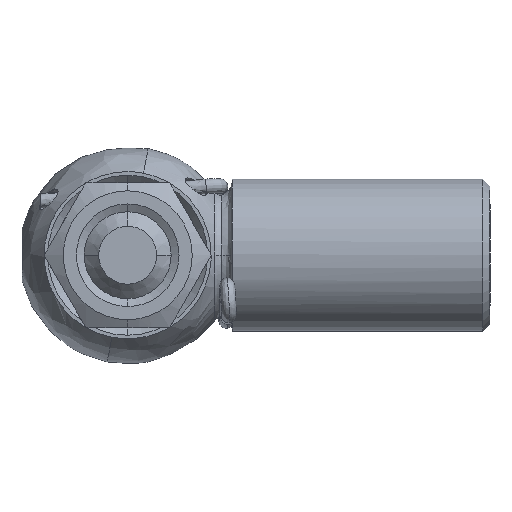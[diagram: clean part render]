
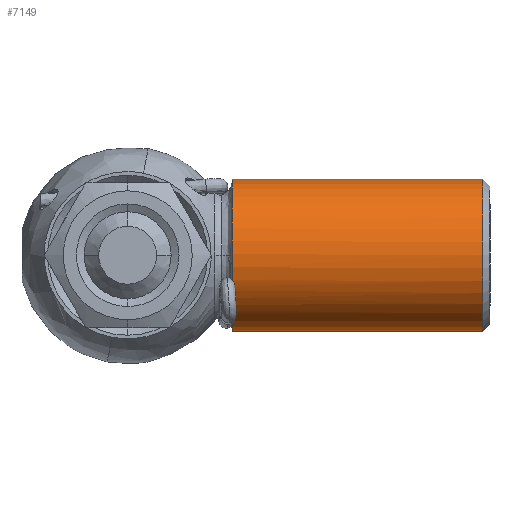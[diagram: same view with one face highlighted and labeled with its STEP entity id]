
A CAD part, front view. The second image highlights one B-rep face of the part: STEP entity #7149.
In plain terms, the highlighted cylindrical face has radius 5.25 mm (diameter 10.5 mm), a partial arc.
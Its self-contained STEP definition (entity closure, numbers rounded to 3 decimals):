
#23 = AXIS2_PLACEMENT_3D ( 'NONE', #8286, #9053, #9854 ) ;
#203 = CARTESIAN_POINT ( 'NONE',  ( -17.718, -3.527, -3.89 ) ) ;
#227 = VERTEX_POINT ( 'NONE', #2310 ) ;
#402 = DIRECTION ( 'NONE',  ( 0., 0., -1. ) ) ;
#454 = ORIENTED_EDGE ( 'NONE', *, *, #8714, .F. ) ;
#520 = CARTESIAN_POINT ( 'NONE',  ( -17.637, -4.763, -2.214 ) ) ;
#744 = CIRCLE ( 'NONE', #8309, 5.25 ) ;
#1259 = VERTEX_POINT ( 'NONE', #10432 ) ;
#1472 = CIRCLE ( 'NONE', #7491, 5.25 ) ;
#1523 = CARTESIAN_POINT ( 'NONE',  ( -17.744, -3.369, -4.026 ) ) ;
#1582 = CARTESIAN_POINT ( 'NONE',  ( -17.637, -3.366, -4.029 ) ) ;
#1589 = CYLINDRICAL_SURFACE ( 'NONE', #2147, 5.25 ) ;
#1640 = LINE ( 'NONE', #1806, #2020 ) ;
#1765 = DIRECTION ( 'NONE',  ( 1., 0., 0. ) ) ;
#1806 = CARTESIAN_POINT ( 'NONE',  ( -17.797, 0., 5.25 ) ) ;
#1826 = CARTESIAN_POINT ( 'NONE',  ( -17.637, -3.366, -4.029 ) ) ;
#2020 = VECTOR ( 'NONE', #4975, 1000. ) ;
#2128 = CARTESIAN_POINT ( 'NONE',  ( -17.628, -4.88, -1.943 ) ) ;
#2147 = AXIS2_PLACEMENT_3D ( 'NONE', #6994, #3640, #6859 ) ;
#2310 = CARTESIAN_POINT ( 'NONE',  ( -17.797, -3.588, -3.833 ) ) ;
#2329 = EDGE_CURVE ( 'NONE', #8410, #9262, #7334, .T. ) ;
#2866 = VERTEX_POINT ( 'NONE', #4331 ) ;
#3360 = CARTESIAN_POINT ( 'NONE',  ( -17.797, 0., 0. ) ) ;
#3466 = VERTEX_POINT ( 'NONE', #4252 ) ;
#3535 = EDGE_CURVE ( 'NONE', #3905, #3466, #744, .T. ) ;
#3640 = DIRECTION ( 'NONE',  ( 1., 0., 0. ) ) ;
#3773 = ORIENTED_EDGE ( 'NONE', *, *, #10501, .T. ) ;
#3780 = ORIENTED_EDGE ( 'NONE', *, *, #5349, .T. ) ;
#3905 = VERTEX_POINT ( 'NONE', #4371 ) ;
#3955 = ORIENTED_EDGE ( 'NONE', *, *, #2329, .T. ) ;
#4201 = AXIS2_PLACEMENT_3D ( 'NONE', #3360, #9747, #9248 ) ;
#4252 = CARTESIAN_POINT ( 'NONE',  ( -17.797, 0., -5.25 ) ) ;
#4275 = B_SPLINE_CURVE_WITH_KNOTS ( 'NONE', 3,
 ( #7658, #203, #10158, #1826 ),
 .UNSPECIFIED., .F., .F.,
 ( 4, 4 ),
 ( 0., 0. ),
 .UNSPECIFIED. ) ;
#4311 = CIRCLE ( 'NONE', #4201, 5.25 ) ;
#4331 = CARTESIAN_POINT ( 'NONE',  ( -17.797, -4.965, -1.707 ) ) ;
#4371 = CARTESIAN_POINT ( 'NONE',  ( -17.797, -3.371, -4.025 ) ) ;
#4589 = CARTESIAN_POINT ( 'NONE',  ( -17.797, 0., 0. ) ) ;
#4605 = ORIENTED_EDGE ( 'NONE', *, *, #9370, .T. ) ;
#4740 = EDGE_CURVE ( 'NONE', #9542, #227, #1472, .T. ) ;
#4975 = DIRECTION ( 'NONE',  ( 1., 0., 0. ) ) ;
#5000 = CARTESIAN_POINT ( 'NONE',  ( -17.797, 0., -5.25 ) ) ;
#5145 = EDGE_CURVE ( 'NONE', #3905, #8367, #7089, .T. ) ;
#5293 = DIRECTION ( 'NONE',  ( 1., 0., 0. ) ) ;
#5306 = DIRECTION ( 'NONE',  ( 1., 0., 0. ) ) ;
#5319 = EDGE_LOOP ( 'NONE', ( #454, #4605, #8452, #7937, #3773, #9882, #5790, #3780, #3955 ) ) ;
#5349 = EDGE_CURVE ( 'NONE', #3466, #8410, #5706, .T. ) ;
#5513 = B_SPLINE_CURVE_WITH_KNOTS ( 'NONE', 3,
 ( #8753, #7877, #2128, #520, #6276, #6318 ),
 .UNSPECIFIED., .F., .F.,
 ( 4, 2, 4 ),
 ( 0., 0., 0.001 ),
 .UNSPECIFIED. ) ;
#5706 = LINE ( 'NONE', #5000, #7141 ) ;
#5790 = ORIENTED_EDGE ( 'NONE', *, *, #3535, .T. ) ;
#6146 = DIRECTION ( 'NONE',  ( 0., 0., -1. ) ) ;
#6215 = CARTESIAN_POINT ( 'NONE',  ( -17.797, -4.647, -2.443 ) ) ;
#6276 = CARTESIAN_POINT ( 'NONE',  ( -17.7, -4.7, -2.343 ) ) ;
#6277 = EDGE_CURVE ( 'NONE', #2866, #9542, #5513, .T. ) ;
#6318 = CARTESIAN_POINT ( 'NONE',  ( -17.797, -4.647, -2.443 ) ) ;
#6544 = CARTESIAN_POINT ( 'NONE',  ( -17.797, -3.371, -4.025 ) ) ;
#6859 = DIRECTION ( 'NONE',  ( 0., 0., -1. ) ) ;
#6994 = CARTESIAN_POINT ( 'NONE',  ( -17.797, 0., 0. ) ) ;
#7089 =( BOUNDED_CURVE ( )  B_SPLINE_CURVE ( 3, ( #6544, #1523, #9722, #1582 ),
 .UNSPECIFIED., .F., .F. ) 
 B_SPLINE_CURVE_WITH_KNOTS ( ( 4, 4 ),
 ( 4.086, 4.087 ),
 .UNSPECIFIED. ) 
 CURVE ( )  GEOMETRIC_REPRESENTATION_ITEM ( )  RATIONAL_B_SPLINE_CURVE ( ( 1., 1., 1., 1. ) ) 
 REPRESENTATION_ITEM ( '' )  );
#7141 = VECTOR ( 'NONE', #1765, 1000. ) ;
#7149 = ADVANCED_FACE ( 'NONE', ( #8432 ), #1589, .T. ) ;
#7200 = CARTESIAN_POINT ( 'NONE',  ( -0.497, 0., -5.25 ) ) ;
#7234 = CARTESIAN_POINT ( 'NONE',  ( -17.637, -3.366, -4.029 ) ) ;
#7334 = CIRCLE ( 'NONE', #23, 5.25 ) ;
#7491 = AXIS2_PLACEMENT_3D ( 'NONE', #4589, #5306, #402 ) ;
#7658 = CARTESIAN_POINT ( 'NONE',  ( -17.797, -3.588, -3.833 ) ) ;
#7746 = CARTESIAN_POINT ( 'NONE',  ( -17.797, 0., 0. ) ) ;
#7877 = CARTESIAN_POINT ( 'NONE',  ( -17.686, -4.932, -1.802 ) ) ;
#7937 = ORIENTED_EDGE ( 'NONE', *, *, #4740, .T. ) ;
#8286 = CARTESIAN_POINT ( 'NONE',  ( -0.497, 0., 0. ) ) ;
#8309 = AXIS2_PLACEMENT_3D ( 'NONE', #7746, #5293, #6146 ) ;
#8367 = VERTEX_POINT ( 'NONE', #7234 ) ;
#8385 = CARTESIAN_POINT ( 'NONE',  ( -0.497, 0., 5.25 ) ) ;
#8410 = VERTEX_POINT ( 'NONE', #7200 ) ;
#8432 = FACE_OUTER_BOUND ( 'NONE', #5319, .T. ) ;
#8452 = ORIENTED_EDGE ( 'NONE', *, *, #6277, .T. ) ;
#8714 = EDGE_CURVE ( 'NONE', #1259, #9262, #1640, .T. ) ;
#8753 = CARTESIAN_POINT ( 'NONE',  ( -17.797, -4.965, -1.707 ) ) ;
#9053 = DIRECTION ( 'NONE',  ( -1., 0., 0. ) ) ;
#9248 = DIRECTION ( 'NONE',  ( 0., 0., -1. ) ) ;
#9262 = VERTEX_POINT ( 'NONE', #8385 ) ;
#9370 = EDGE_CURVE ( 'NONE', #1259, #2866, #4311, .T. ) ;
#9542 = VERTEX_POINT ( 'NONE', #6215 ) ;
#9722 = CARTESIAN_POINT ( 'NONE',  ( -17.691, -3.367, -4.028 ) ) ;
#9747 = DIRECTION ( 'NONE',  ( 1., 0., 0. ) ) ;
#9854 = DIRECTION ( 'NONE',  ( 0., 0., -1. ) ) ;
#9882 = ORIENTED_EDGE ( 'NONE', *, *, #5145, .F. ) ;
#10158 = CARTESIAN_POINT ( 'NONE',  ( -17.669, -3.45, -3.959 ) ) ;
#10432 = CARTESIAN_POINT ( 'NONE',  ( -17.797, 0., 5.25 ) ) ;
#10501 = EDGE_CURVE ( 'NONE', #227, #8367, #4275, .T. ) ;
